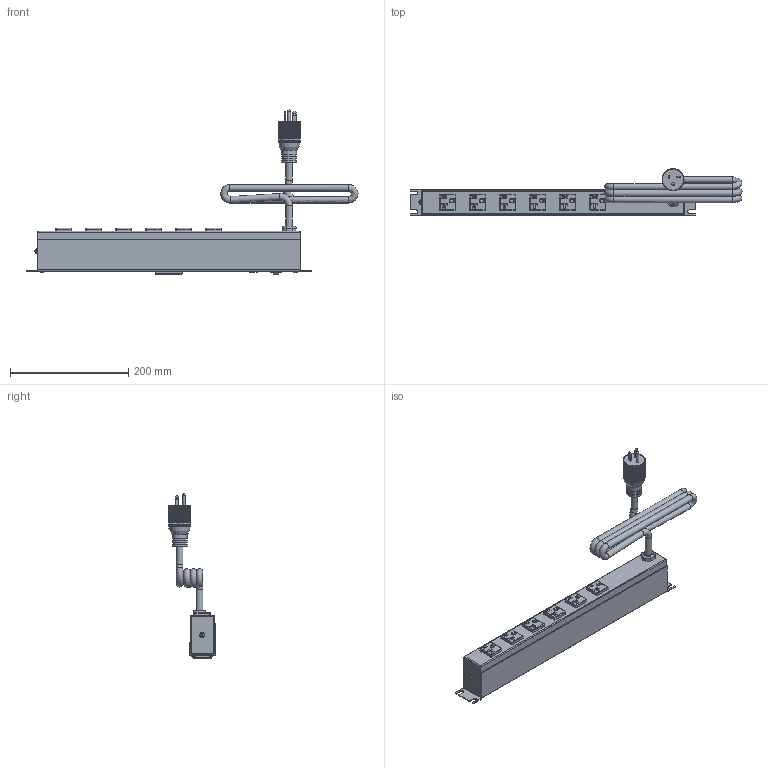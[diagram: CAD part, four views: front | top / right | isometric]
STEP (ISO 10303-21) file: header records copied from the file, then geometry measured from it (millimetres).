
FILE_DESCRIPTION((''),'2;1');
FILE_NAME('E:\Dutton\Manufacturing\drawings\Updated 2009\POWER BARS\1589 AM series\STEP''s\1589T6F1BKRRAM.stp','2010-01-12T15:46:22',('tfoster'),(''),'Autodesk Inventor 2010','Autodesk Inventor 2010','');
FILE_SCHEMA(('AUTOMOTIVE_DESIGN { 1 0 10303 214 1 1 1 1 }'));
Products named in the file (12): 1589T6F1BKRRAM; 1589H6 Front Panel; Amp reader; Amp top; 1589H6 back plate; Reset Switch; toothwasher; round head 1-way 8-32 x 0.5 screw; #6x0.5 type A; 20 amp Cored; 20 Amp Receptacle; Pilot light
Assembly tree (19 placements, depth 2):
  1589T6F1BKRRAM
    1589H6 Front Panel
    Amp reader
    Amp top
    1589H6 back plate
    Reset Switch
    toothwasher
    round head 1-way 8-32 x 0.5 screw
    #6x0.5 type A  x4
    20 amp Cored
    20 Amp Receptacle  x6
    Pilot light
Bounding box: 560.88 x 78.32 x 278.04 mm (x, y, z)
Volume: 455348 mm3; surface area: 321112.7 mm2
Topology: 19 solids, 19 shells, 1216 faces, 3502 edges, 2336 vertices
Faces by surface type: plane 839, cylinder 207, bspline 93, cone 31, sphere 30, torus 16
Full cylindrical faces by diameter (mm): 1.803 x3, 1.905 x2, 2.362 x8, 2.997 x4, 3.2 x2, 4.3 x1, 4.801 x1, 4.826 x1, 5.563 x4, 7.849 x1, 11 x4, 12.5 x1, 19.05 x1, 22.606 x2, 25.146 x3
Entity records: 29366 total; most frequent: CARTESIAN_POINT 8582, ORIENTED_EDGE 4420, DIRECTION 3925, EDGE_CURVE 2210, VERTEX_POINT 1503, VECTOR 1473, LINE 1473, AXIS2_PLACEMENT_3D 1226
